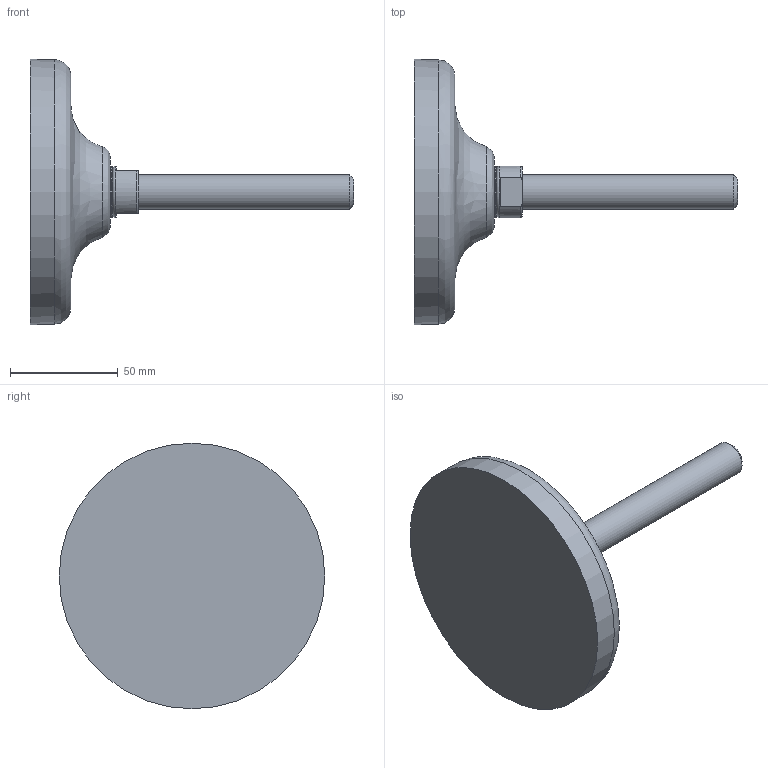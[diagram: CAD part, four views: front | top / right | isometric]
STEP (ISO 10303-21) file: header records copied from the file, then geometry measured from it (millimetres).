
FILE_DESCRIPTION(('STEP AP203'),'2;1');
FILE_NAME('12818.stp','2015-07-01T11:24:09',(''),(''),'2008.1.107','THINKDESIGN','');
FILE_SCHEMA(('CONFIG_CONTROL_DESIGN'));
Length unit declared in the file: millimetre
Bounding box: 150 x 123 x 123 mm (x, y, z)
Volume: 280277.5 mm3; surface area: 38969.8 mm2
Topology: 4 solids, 4 shells, 27 faces, 62 edges, 44 vertices
Faces by surface type: plane 13, bspline 11, cylinder 3
Full cylindrical faces by diameter (mm): 16 x1, 24 x2
Entity records: 2027 total; most frequent: CARTESIAN_POINT 1313, DIRECTION 135, ORIENTED_EDGE 124, EDGE_CURVE 62, AXIS2_PLACEMENT_3D 61, CIRCLE 45, VERTEX_POINT 44, EDGE_LOOP 28
